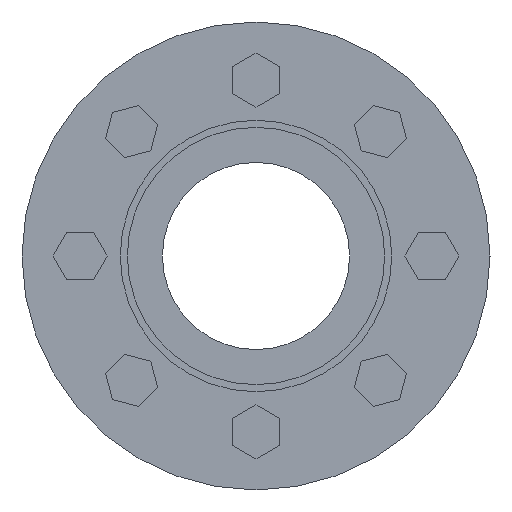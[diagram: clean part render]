
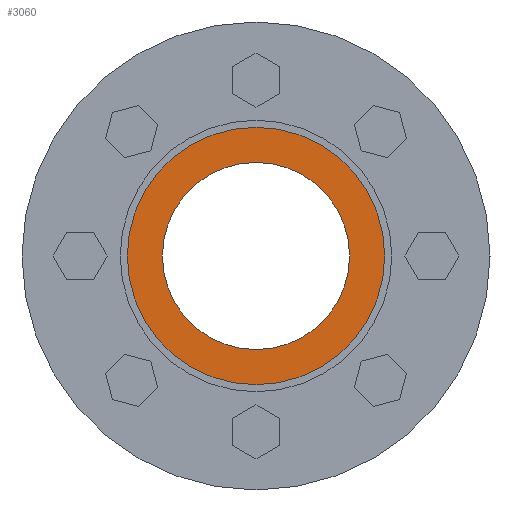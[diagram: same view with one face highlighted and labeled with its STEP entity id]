
A CAD part, left-side view. The second image highlights one B-rep face of the part: STEP entity #3060.
In plain terms, the highlighted planar face has unit normal (-1, 0, 0).
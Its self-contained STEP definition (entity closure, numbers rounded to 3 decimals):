
#20=CARTESIAN_POINT('',(-192.,0.,0.));
#21=DIRECTION('',(-1.,0.,0.));
#22=DIRECTION('',(0.,1.,0.));
#23=AXIS2_PLACEMENT_3D('',#20,#21,#22);
#36=CARTESIAN_POINT('',(-192.,0.,0.));
#37=DIRECTION('',(1.,0.,0.));
#38=DIRECTION('',(0.,1.,0.));
#39=AXIS2_PLACEMENT_3D('',#36,#37,#38);
#403=CARTESIAN_POINT('',(-192.,0.,0.));
#404=DIRECTION('',(1.,0.,0.));
#405=DIRECTION('',(0.,1.,0.));
#406=AXIS2_PLACEMENT_3D('',#403,#404,#405);
#411=CARTESIAN_POINT('',(-192.,0.,0.));
#412=DIRECTION('',(1.,0.,0.));
#413=DIRECTION('',(0.,-1.,0.));
#414=AXIS2_PLACEMENT_3D('',#411,#412,#413);
#2453=CARTESIAN_POINT('',(-192.,20.,0.));
#2455=VERTEX_POINT('',#2453);
#2457=CARTESIAN_POINT('',(-192.,-20.,0.));
#2459=VERTEX_POINT('',#2457);
#2877=CARTESIAN_POINT('',(-192.,27.5,0.));
#2878=CARTESIAN_POINT('',(-192.,-27.5,0.));
#2879=VERTEX_POINT('',#2877);
#2880=VERTEX_POINT('',#2878);
#3045=CARTESIAN_POINT('',(-192.,0.,0.));
#3046=DIRECTION('',(-1.,0.,0.));
#3047=DIRECTION('',(0.,1.,0.));
#3048=AXIS2_PLACEMENT_3D('',#3045,#3046,#3047);
#3049=PLANE('',#3048);
#3051=ORIENTED_EDGE('',*,*,#3050,.T.);
#3053=ORIENTED_EDGE('',*,*,#3052,.T.);
#3054=EDGE_LOOP('',(#3051,#3053));
#3055=FACE_OUTER_BOUND('',#3054,.F.);
#3056=ORIENTED_EDGE('',*,*,#2907,.F.);
#3057=ORIENTED_EDGE('',*,*,#2896,.T.);
#3058=EDGE_LOOP('',(#3056,#3057));
#3059=FACE_BOUND('',#3058,.F.);
#3060=ADVANCED_FACE('',(#3055,#3059),#3049,.T.);
#24=CIRCLE('',#23,20.);
#40=CIRCLE('',#39,20.);
#407=CIRCLE('',#406,27.5);
#415=CIRCLE('',#414,27.5);
#2896=EDGE_CURVE('',#2455,#2459,#24,.T.);
#2907=EDGE_CURVE('',#2455,#2459,#40,.T.);
#3050=EDGE_CURVE('',#2879,#2880,#407,.T.);
#3052=EDGE_CURVE('',#2880,#2879,#415,.T.);
